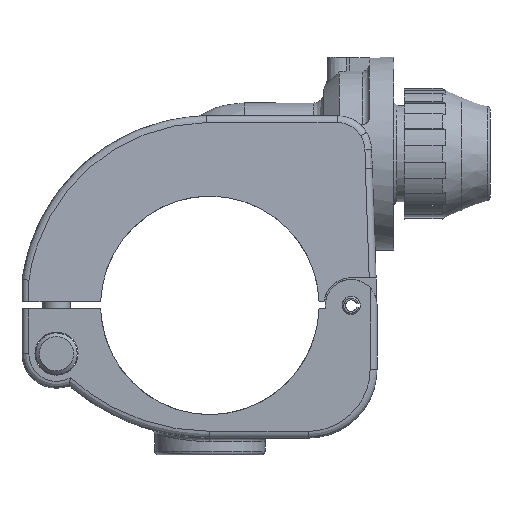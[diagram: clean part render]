
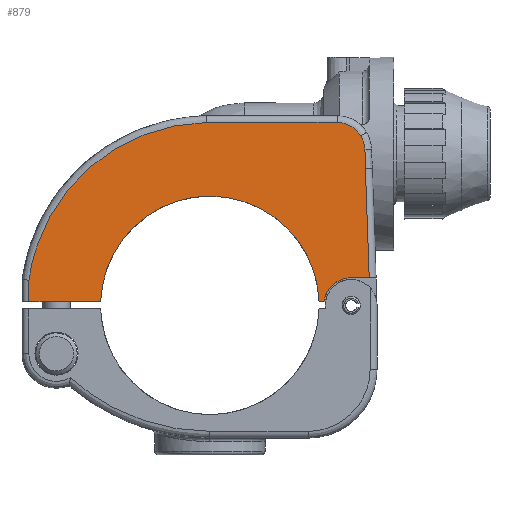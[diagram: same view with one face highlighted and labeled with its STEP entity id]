
A CAD part, left-side view. The second image highlights one B-rep face of the part: STEP entity #879.
In plain terms, the highlighted planar face has unit normal (-0.999, 0, 0.035).
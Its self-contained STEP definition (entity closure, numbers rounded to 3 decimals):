
#879 = ADVANCED_FACE( '', ( #1950 ), #1951, .F. );
#1950 = FACE_OUTER_BOUND( '', #9921, .T. );
#1951 = PLANE( '', #9922 );
#9921 = EDGE_LOOP( '', ( #18561, #18562, #18563, #18564, #18565, #18566, #18567, #18568, #18569, #18570, #18571, #18572 ) );
#9922 = AXIS2_PLACEMENT_3D( '', #18573, #18574, #18575 );
#18561 = ORIENTED_EDGE( '', *, *, #20547, .F. );
#18562 = ORIENTED_EDGE( '', *, *, #20431, .T. );
#18563 = ORIENTED_EDGE( '', *, *, #21104, .F. );
#18564 = ORIENTED_EDGE( '', *, *, #21105, .F. );
#18565 = ORIENTED_EDGE( '', *, *, #20886, .F. );
#18566 = ORIENTED_EDGE( '', *, *, #20345, .F. );
#18567 = ORIENTED_EDGE( '', *, *, #20705, .F. );
#18568 = ORIENTED_EDGE( '', *, *, #21106, .F. );
#18569 = ORIENTED_EDGE( '', *, *, #20882, .F. );
#18570 = ORIENTED_EDGE( '', *, *, #21107, .F. );
#18571 = ORIENTED_EDGE( '', *, *, #21108, .F. );
#18572 = ORIENTED_EDGE( '', *, *, #21109, .F. );
#18573 = CARTESIAN_POINT( '', ( -30.996, -75.5, 44.349 ) );
#18574 = DIRECTION( '', ( 0.999, 0., -0.035 ) );
#18575 = DIRECTION( '', ( 0.035, 0., 0.999 ) );
#20345 = EDGE_CURVE( '', #21767, #21768, #21769, .T. );
#20431 = EDGE_CURVE( '', #21913, #21918, #21920, .T. );
#20547 = EDGE_CURVE( '', #21913, #22109, #22110, .F. );
#20705 = EDGE_CURVE( '', #22371, #21767, #22373, .T. );
#20882 = EDGE_CURVE( '', #22655, #22657, #22658, .F. );
#20886 = EDGE_CURVE( '', #21768, #22663, #22664, .T. );
#21104 = EDGE_CURVE( '', #22967, #21918, #22968, .F. );
#21105 = EDGE_CURVE( '', #22663, #22967, #22969, .T. );
#21106 = EDGE_CURVE( '', #22657, #22371, #22970, .T. );
#21107 = EDGE_CURVE( '', #21634, #22655, #22971, .T. );
#21108 = EDGE_CURVE( '', #22972, #21634, #22973, .F. );
#21109 = EDGE_CURVE( '', #22109, #22972, #22974, .F. );
#21634 = VERTEX_POINT( '', #23751 );
#21767 = VERTEX_POINT( '', #24242 );
#21768 = VERTEX_POINT( '', #24243 );
#21769 = LINE( '', #24244, #24245 );
#21913 = VERTEX_POINT( '', #25585 );
#21918 = VERTEX_POINT( '', #25591 );
#21920 = ELLIPSE( '', #25594, 31.719, 31.7 );
#22109 = VERTEX_POINT( '', #26833 );
#22110 = LINE( '', #26834, #26835 );
#22371 = VERTEX_POINT( '', #27990 );
#22373 = B_SPLINE_CURVE_WITH_KNOTS( '', 3, ( #27992, #27993, #27994, #27995, #27996, #27997, #27998, #27999, #28000, #28001, #28002, #28003 ), .UNSPECIFIED., .F., .F., ( 4, 1, 2, 1, 1, 1, 1, 1, 4 ), ( 0., 0.001, 0.001, 0.002, 0.003, 0.004, 0.004, 0.005, 0.006 ), .UNSPECIFIED. );
#22655 = VERTEX_POINT( '', #29205 );
#22657 = VERTEX_POINT( '', #29207 );
#22658 = ELLIPSE( '', #29208, 8.005, 8. );
#22663 = VERTEX_POINT( '', #29214 );
#22664 = LINE( '', #29215, #29216 );
#22967 = VERTEX_POINT( '', #30626 );
#22968 = LINE( '', #30627, #30628 );
#22969 = ELLIPSE( '', #30629, 8.005, 8. );
#22970 = B_SPLINE_CURVE_WITH_KNOTS( '', 3, ( #30630, #30631, #30632, #30633, #30634, #30635, #30636, #30637, #30638, #30639, #30640, #30641, #30642, #30643, #30644, #30645, #30646, #30647, #30648, #30649 ), .UNSPECIFIED., .F., .F., ( 4, 2, 2, 1, 1, 1, 1, 2, 2, 2, 1, 1, 4 ), ( 0., 0., 0., 0.001, 0.001, 0.002, 0.002, 0.003, 0.003, 0.003, 0.003, 0.004, 0.004 ), .UNSPECIFIED. );
#22971 = LINE( '', #30650, #30651 );
#22972 = VERTEX_POINT( '', #30652 );
#22973 = ELLIPSE( '', #30653, 53.032, 53. );
#22974 = LINE( '', #30654, #30655 );
#23751 = CARTESIAN_POINT( '', ( -29.178, 1.05, 96.414 ) );
#24242 = CARTESIAN_POINT( '', ( -29.648, -45.119, 82.933 ) );
#24243 = CARTESIAN_POINT( '', ( -30.753, -46.224, 51.296 ) );
#24244 = CARTESIAN_POINT( '', ( -31.031, -46.502, 43.338 ) );
#24245 = VECTOR( '', #33377, 1000. );
#25585 = CARTESIAN_POINT( '', ( -30.996, 31.684, 44.349 ) );
#25591 = CARTESIAN_POINT( '', ( -30.996, -31.684, 44.349 ) );
#25594 = AXIS2_PLACEMENT_3D( '', #33479, #33480, #33481 );
#26833 = CARTESIAN_POINT( '', ( -30.996, 52.5, 44.349 ) );
#26834 = CARTESIAN_POINT( '', ( -30.996, -75.5, 44.349 ) );
#26835 = VECTOR( '', #33607, 1000. );
#27990 = CARTESIAN_POINT( '', ( -29.448, -44.987, 88.676 ) );
#27992 = CARTESIAN_POINT( '', ( -29.448, -44.987, 88.676 ) );
#27993 = CARTESIAN_POINT( '', ( -29.456, -44.996, 88.437 ) );
#27994 = CARTESIAN_POINT( '', ( -29.473, -45.013, 87.958 ) );
#27995 = CARTESIAN_POINT( '', ( -29.489, -45.026, 87.48 ) );
#27996 = CARTESIAN_POINT( '', ( -29.506, -45.038, 87.001 ) );
#27997 = CARTESIAN_POINT( '', ( -29.523, -45.049, 86.522 ) );
#27998 = CARTESIAN_POINT( '', ( -29.548, -45.061, 85.805 ) );
#27999 = CARTESIAN_POINT( '', ( -29.573, -45.072, 85.087 ) );
#28000 = CARTESIAN_POINT( '', ( -29.598, -45.083, 84.369 ) );
#28001 = CARTESIAN_POINT( '', ( -29.623, -45.097, 83.651 ) );
#28002 = CARTESIAN_POINT( '', ( -29.64, -45.111, 83.172 ) );
#28003 = CARTESIAN_POINT( '', ( -29.648, -45.119, 82.933 ) );
#29205 = CARTESIAN_POINT( '', ( -29.177, -36.922, 96.419 ) );
#29207 = CARTESIAN_POINT( '', ( -29.312, -43.775, 92.548 ) );
#29208 = AXIS2_PLACEMENT_3D( '', #34038, #34039, #34040 );
#29214 = CARTESIAN_POINT( '', ( -30.753, -40.08, 51.296 ) );
#29215 = CARTESIAN_POINT( '', ( -30.753, -75.5, 51.296 ) );
#29216 = VECTOR( '', #34045, 1000. );
#30626 = CARTESIAN_POINT( '', ( -30.996, -33.063, 44.349 ) );
#30627 = CARTESIAN_POINT( '', ( -30.996, -75.5, 44.349 ) );
#30628 = VECTOR( '', #34279, 1000. );
#30629 = AXIS2_PLACEMENT_3D( '', #34280, #34281, #34282 );
#30630 = CARTESIAN_POINT( '', ( -29.312, -43.775, 92.548 ) );
#30631 = CARTESIAN_POINT( '', ( -29.315, -43.819, 92.475 ) );
#30632 = CARTESIAN_POINT( '', ( -29.318, -43.862, 92.401 ) );
#30633 = CARTESIAN_POINT( '', ( -29.322, -43.926, 92.289 ) );
#30634 = CARTESIAN_POINT( '', ( -29.323, -43.946, 92.251 ) );
#30635 = CARTESIAN_POINT( '', ( -29.325, -43.988, 92.176 ) );
#30636 = CARTESIAN_POINT( '', ( -29.332, -44.089, 91.987 ) );
#30637 = CARTESIAN_POINT( '', ( -29.344, -44.26, 91.643 ) );
#30638 = CARTESIAN_POINT( '', ( -29.36, -44.46, 91.174 ) );
#30639 = CARTESIAN_POINT( '', ( -29.377, -44.631, 90.694 ) );
#30640 = CARTESIAN_POINT( '', ( -29.389, -44.725, 90.366 ) );
#30641 = CARTESIAN_POINT( '', ( -29.396, -44.777, 90.158 ) );
#30642 = CARTESIAN_POINT( '', ( -29.397, -44.787, 90.117 ) );
#30643 = CARTESIAN_POINT( '', ( -29.4, -44.807, 90.033 ) );
#30644 = CARTESIAN_POINT( '', ( -29.402, -44.816, 89.991 ) );
#30645 = CARTESIAN_POINT( '', ( -29.406, -44.843, 89.866 ) );
#30646 = CARTESIAN_POINT( '', ( -29.415, -44.893, 89.613 ) );
#30647 = CARTESIAN_POINT( '', ( -29.43, -44.955, 89.189 ) );
#30648 = CARTESIAN_POINT( '', ( -29.442, -44.98, 88.847 ) );
#30649 = CARTESIAN_POINT( '', ( -29.448, -44.987, 88.676 ) );
#30650 = CARTESIAN_POINT( '', ( -29.177, 0., 96.419 ) );
#30651 = VECTOR( '', #34283, 1000. );
#30652 = CARTESIAN_POINT( '', ( -30.774, 52.5, 50.682 ) );
#30653 = AXIS2_PLACEMENT_3D( '', #34284, #34285, #34286 );
#30654 = CARTESIAN_POINT( '', ( -30.772, 52.5, 50.749 ) );
#30655 = VECTOR( '', #34287, 1000. );
#33377 = DIRECTION( '', ( -0.035, -0.035, -0.999 ) );
#33479 = CARTESIAN_POINT( '', ( -31.031, 0., 43.349 ) );
#33480 = DIRECTION( '', ( 0.999, 0., -0.035 ) );
#33481 = DIRECTION( '', ( -0.035, 0., -0.999 ) );
#33607 = DIRECTION( '', ( 0., -1., 0. ) );
#34038 = CARTESIAN_POINT( '', ( -29.457, -36.922, 88.419 ) );
#34039 = DIRECTION( '', ( -0.999, 0., 0.035 ) );
#34040 = DIRECTION( '', ( -0.035, 0., -0.999 ) );
#34045 = DIRECTION( '', ( 0., 1., 0. ) );
#34279 = DIRECTION( '', ( 0., -1., 0. ) );
#34280 = CARTESIAN_POINT( '', ( -31.031, -41., 43.349 ) );
#34281 = DIRECTION( '', ( -0.999, 0., 0.035 ) );
#34282 = DIRECTION( '', ( 0.035, 0., 0.999 ) );
#34283 = DIRECTION( '', ( 0., -1., 0. ) );
#34284 = CARTESIAN_POINT( '', ( -31.028, 0., 43.419 ) );
#34285 = DIRECTION( '', ( -0.999, 0., 0.035 ) );
#34286 = DIRECTION( '', ( 0.035, 0., 0.999 ) );
#34287 = DIRECTION( '', ( -0.035, 0., -0.999 ) );
